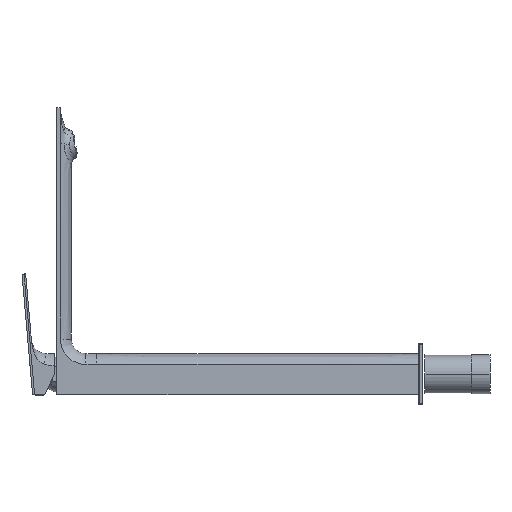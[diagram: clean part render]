
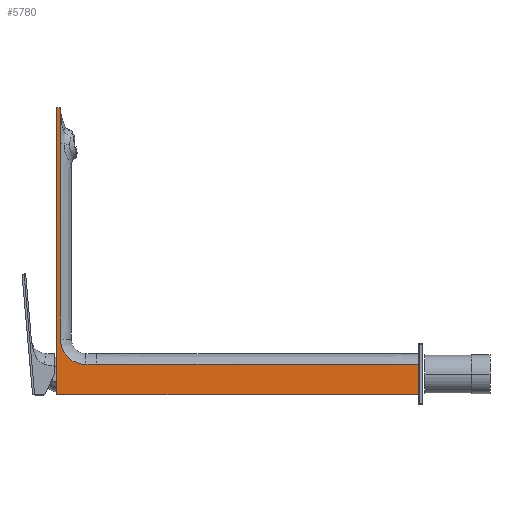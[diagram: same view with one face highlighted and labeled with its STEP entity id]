
A CAD part, left-side view. The second image highlights one B-rep face of the part: STEP entity #5780.
In plain terms, the highlighted planar face has unit normal (-1, 0, 0).
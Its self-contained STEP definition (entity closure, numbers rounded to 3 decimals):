
#762=DIRECTION('',(0.,0.,1.));
#763=VECTOR('',#762,161.);
#764=CARTESIAN_POINT('',(-17.,0.,29.));
#765=LINE('',#764,#763);
#809=DIRECTION('',(0.,0.,-1.));
#810=VECTOR('',#809,30.);
#811=CARTESIAN_POINT('',(-17.,0.,220.));
#812=LINE('',#811,#810);
#813=DIRECTION('',(0.,-1.,0.));
#814=VECTOR('',#813,9.);
#815=CARTESIAN_POINT('',(-17.,-21.,8.));
#816=LINE('',#815,#814);
#817=CARTESIAN_POINT('',(-17.,-21.,29.));
#818=DIRECTION('',(-1.,0.,0.));
#819=DIRECTION('',(0.,1.,0.));
#820=AXIS2_PLACEMENT_3D('',#817,#818,#819);
#828=CARTESIAN_POINT('',(-17.,-30.,8.));
#842=DIRECTION('',(0.,1.,0.));
#843=VECTOR('',#842,265.5);
#844=CARTESIAN_POINT('',(-17.,-295.5,8.));
#845=LINE('',#844,#843);
#1127=DIRECTION('',(0.,1.,0.));
#1128=VECTOR('',#1127,3.);
#1129=CARTESIAN_POINT('',(-17.,0.,220.));
#1130=LINE('',#1129,#1128);
#1139=DIRECTION('',(0.,0.,-1.));
#1140=VECTOR('',#1139,237.);
#1141=CARTESIAN_POINT('',(-17.,3.,220.));
#1142=LINE('',#1141,#1140);
#1157=DIRECTION('',(0.,-1.,0.));
#1158=VECTOR('',#1157,298.5);
#1159=CARTESIAN_POINT('',(-17.,3.,-17.));
#1160=LINE('',#1159,#1158);
#1169=CARTESIAN_POINT('',(-17.,-295.5,8.));
#1193=DIRECTION('',(0.,0.,1.));
#1194=VECTOR('',#1193,25.);
#1195=CARTESIAN_POINT('',(-17.,-295.5,-17.));
#1196=LINE('',#1195,#1194);
#3787=CARTESIAN_POINT('',(-17.,0.,29.));
#3788=CARTESIAN_POINT('',(-17.,-21.,8.));
#3789=VERTEX_POINT('',#3787);
#3790=VERTEX_POINT('',#3788);
#3791=CARTESIAN_POINT('',(-17.,0.,220.));
#3792=CARTESIAN_POINT('',(-17.,0.,190.));
#3793=VERTEX_POINT('',#3791);
#3794=VERTEX_POINT('',#3792);
#3795=CARTESIAN_POINT('',(-17.,3.,220.));
#3796=VERTEX_POINT('',#3795);
#3797=CARTESIAN_POINT('',(-17.,3.,-17.));
#3798=VERTEX_POINT('',#3797);
#3817=VERTEX_POINT('',#1169);
#3822=CARTESIAN_POINT('',(-17.,-295.5,-17.));
#3823=VERTEX_POINT('',#3822);
#3825=VERTEX_POINT('',#828);
#5757=CARTESIAN_POINT('',(-17.,3.,33.));
#5758=DIRECTION('',(-1.,0.,0.));
#5759=DIRECTION('',(0.,-1.,0.));
#5760=AXIS2_PLACEMENT_3D('',#5757,#5758,#5759);
#5761=PLANE('',#5760);
#5763=ORIENTED_EDGE('',*,*,#5762,.T.);
#5765=ORIENTED_EDGE('',*,*,#5764,.F.);
#5767=ORIENTED_EDGE('',*,*,#5766,.F.);
#5769=ORIENTED_EDGE('',*,*,#5768,.F.);
#5771=ORIENTED_EDGE('',*,*,#5770,.F.);
#5773=ORIENTED_EDGE('',*,*,#5772,.F.);
#5774=ORIENTED_EDGE('',*,*,#5750,.T.);
#5775=ORIENTED_EDGE('',*,*,#5477,.F.);
#5777=ORIENTED_EDGE('',*,*,#5776,.T.);
#5778=EDGE_LOOP('',(#5763,#5765,#5767,#5769,#5771,#5773,#5774,#5775,#5777));
#5779=FACE_OUTER_BOUND('',#5778,.F.);
#5780=ADVANCED_FACE('',(#5779),#5761,.T.);
#821=CIRCLE('',#820,21.);
#5477=EDGE_CURVE('',#3789,#3794,#765,.T.);
#5750=EDGE_CURVE('',#3793,#3794,#812,.T.);
#5762=EDGE_CURVE('',#3790,#3825,#816,.T.);
#5764=EDGE_CURVE('',#3817,#3825,#845,.T.);
#5766=EDGE_CURVE('',#3823,#3817,#1196,.T.);
#5768=EDGE_CURVE('',#3798,#3823,#1160,.T.);
#5770=EDGE_CURVE('',#3796,#3798,#1142,.T.);
#5772=EDGE_CURVE('',#3793,#3796,#1130,.T.);
#5776=EDGE_CURVE('',#3789,#3790,#821,.T.);
